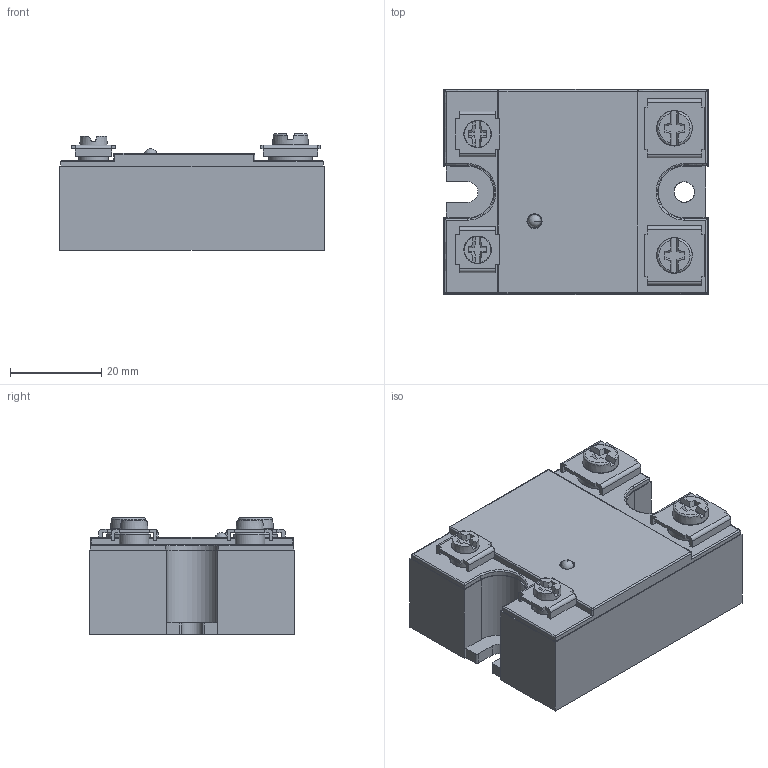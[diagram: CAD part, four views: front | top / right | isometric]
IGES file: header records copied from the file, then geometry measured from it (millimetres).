
Global section: file name: Filename.iges; native system: Open CASCADE 7.3; preprocessor: Open CASCADE IGES processor 7.3; date: 20201105.091530; units: millimetre
Bounding box: 58 x 45 x 25.6 mm (x, y, z)
Surface area: 24336.1 mm2 (no closed solid volume)
Topology: 0 solids, 0 shells, 535 faces, 5815 edges, 14110 vertices
Faces by surface type: plane 369, revolution 166
